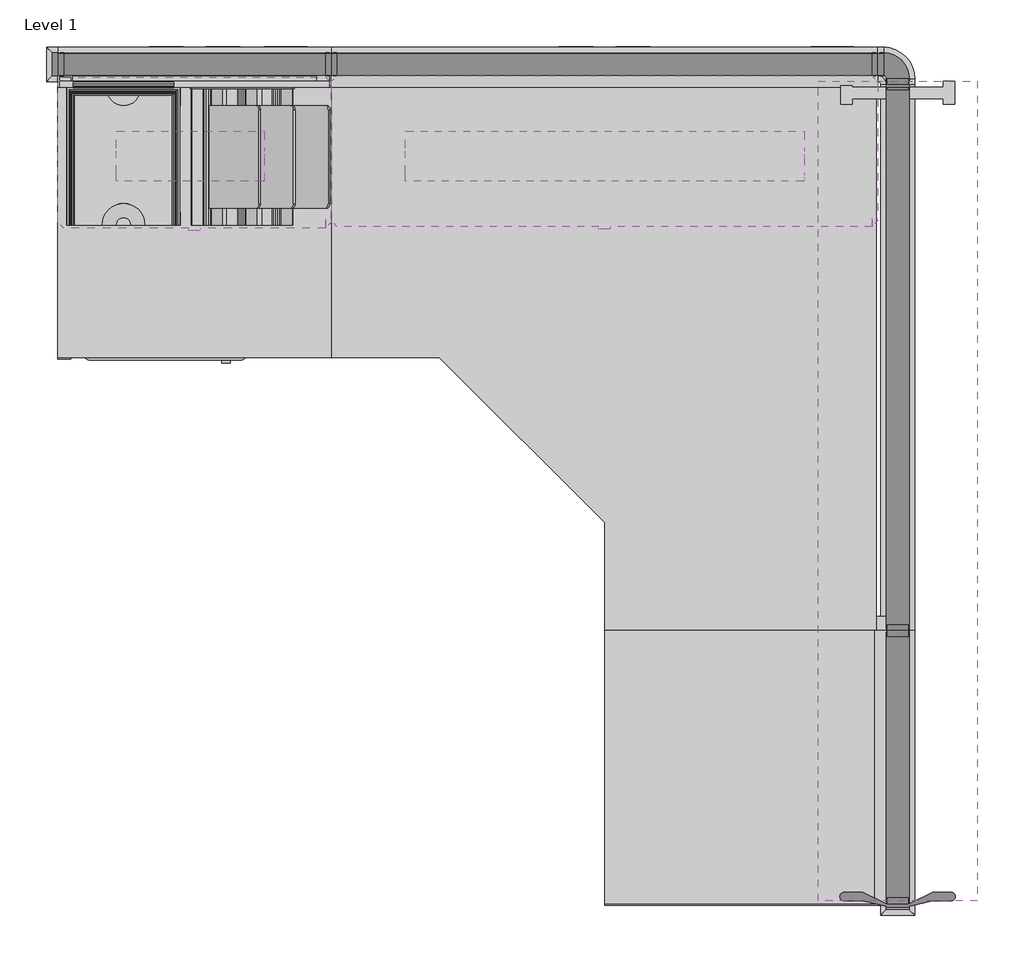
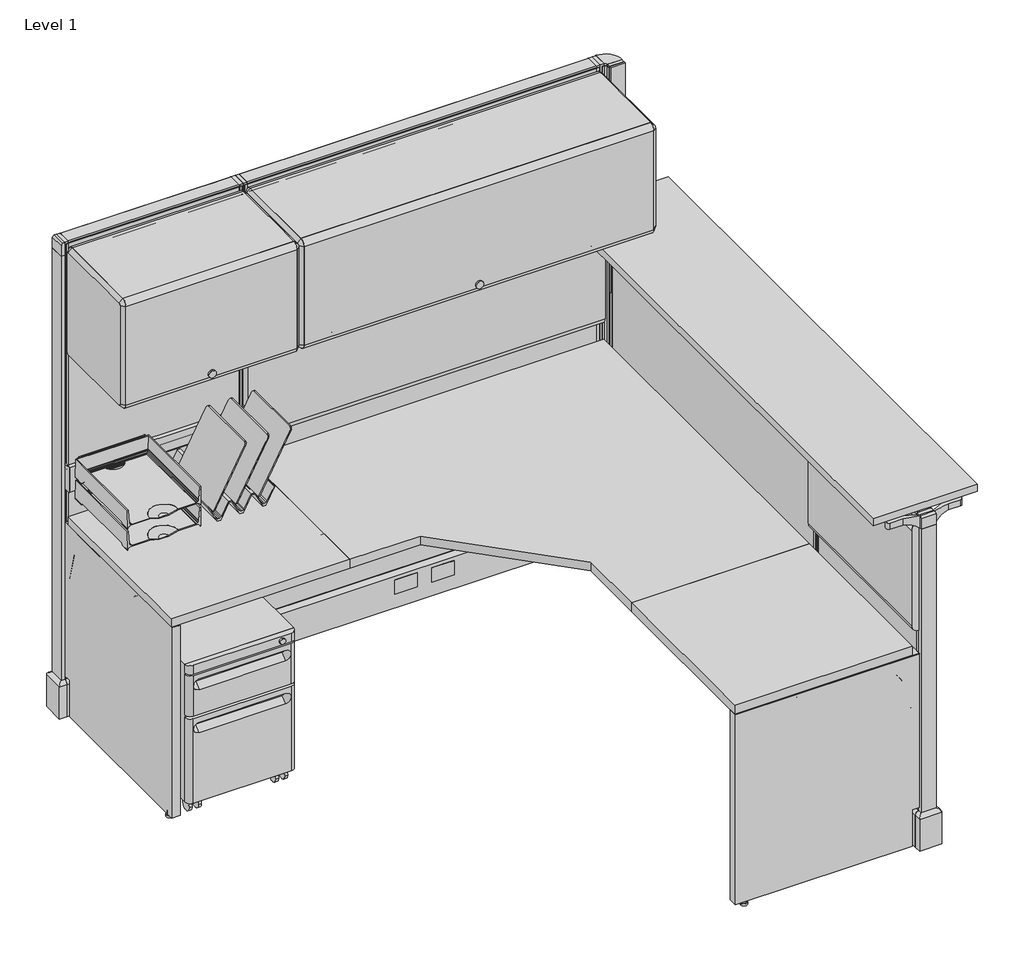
# One storey, incomplete: 24 furniture elements, 2 light fixtures.
"""IFC4 building model written with IfcOpenShell, lengths in millimetres."""

from ifc_helpers import new_model, si_unit, origin, place, context, project, spatial, transform, mapped, element, save
from components import furniture_75fc3fe0, furniture_a2665887, furniture_f058e72c, furniture_db9437f5, furniture_d4c6b201, furniture_b123b550, furniture_6a59721d, furniture_cb78dd66, furniture_6098a880, furniture_061b7ed1, furniture_fdb7128d, furniture_22e63fa4, furniture_4f6b2c6c, furniture_f221023d, furniture_98713a82, furniture_84c54a78, furniture_b7c7402d, furniture_d0aba1ae, furniture_3045a4df, furniture_5c2546f9, furniture_ba981915, mid_end_1fdd12aa, light_fixture_06b90bd9, light_fixture_23ee1715

model = new_model("IFC4")

# Units and contexts
model_context = context("Model", 3, world=origin())
ifc_project = project(units=[si_unit("LENGTHUNIT", "METRE", prefix="MILLI")], contexts=[model_context])

# Site, building, storey
site = spatial("IfcSite", under=ifc_project)
building = spatial("IfcBuilding", under=site)
storey = spatial("IfcBuildingStorey", under=building, Name="Level 1", Elevation=0.0)

# Furniture
placement = place(None, origin())
furniture_shape = furniture_75fc3fe0(model_context)
element("IfcFurniture", 1, ObjectType="HermanMiller_ThrivePortfolio_Y7218_DiagonalTray : 8 1/2\"H x 12\"D x 13\"W", at=placement, inside=storey, context=model_context, shape_type="MappedRepresentation", body=[
    mapped(furniture_shape, transform((410.816817, -230.22052, 0.0), x_axis=(1.0, 0.0, 0.0), y_axis=(0.0, 1.0, 0.0), z_axis=(0.0, 0.0, 1.0))),
])
furniture_2_shape = furniture_a2665887(model_context)
element("IfcFurniture", 2, ObjectType="HermanMiller_ThrivePortfolio_Y7216_PaperTray : 3\"H x 12\"D x 10\"W", at=placement, inside=storey, context=model_context, shape_type="MappedRepresentation", body=[
    mapped(furniture_2_shape, transform((146.2024, -230.22052, 0.0), x_axis=(1.0, 0.0, 0.0), y_axis=(0.0, 1.0, 0.0), z_axis=(0.0, 0.0, 1.0))),
])
furniture_3_shape = furniture_f058e72c(model_context)
element("IfcFurniture", 3, ObjectType="HermanMiller_ThrivePortfolio_Y7216_PaperTray : 3\"H x 12\"D x 10\"W", at=placement, inside=storey, context=model_context, shape_type="MappedRepresentation", body=[
    mapped(furniture_3_shape, transform((146.2024, -230.22052, 0.0), x_axis=(1.0, 0.0, 0.0), y_axis=(0.0, 1.0, 0.0), z_axis=(0.0, 0.0, 1.0))),
])
furniture_4_shape = furniture_db9437f5(model_context)
element("IfcFurniture", 4, ObjectType="HermanMiller_ActionOffice_A2332_Sq-EdgeCornerWorkSurface : 24\"D x 48\"W", at=placement, inside=storey, context=model_context, shape_type="MappedRepresentation", body=[
    mapped(furniture_4_shape, transform((1063.625, -812.8, 0.0), x_axis=(0.0, -1.0, 0.0), y_axis=(1.0, 0.0, 0.0), z_axis=(0.0, 0.0, 1.0))),
])
furniture_5_shape = furniture_d4c6b201(model_context)
element("IfcFurniture", 5, ObjectType="HermanMiller_ActionOffice_A2310_Sq-EdgeRectangularWorkSurface : 24\"D x 24\"W", at=placement, inside=storey, context=model_context, shape_type="MappedRepresentation", body=[
    mapped(furniture_5_shape, transform((1533.525, -1593.85, 0.0), x_axis=(0.0, -1.0, 0.0), y_axis=(1.0, 0.0, 0.0), z_axis=(0.0, 0.0, 1.0))),
])
element("IfcFurniture", 6, ObjectType="HermanMiller_ActionOffice_A2310_Sq-EdgeRectangularWorkSurface : 24\"D x 24\"W", at=placement, inside=storey, context=model_context, shape_type="MappedRepresentation", body=[
    mapped(furniture_5_shape, transform((304.8, -365.125, 0.0), x_axis=(1.0, 0.0, 0.0), y_axis=(0.0, 1.0, 0.0), z_axis=(0.0, 0.0, 1.0))),
])
furniture_6_shape = furniture_b123b550(model_context)
element("IfcFurniture", 7, ObjectType="HermanMiller_ActionOffice_A3352_B-StyleFlipperDoorUnit : 15 1/2\"H x 13\"D x 24\"W", at=placement, inside=storey, context=model_context, shape_type="MappedRepresentation", body=[
    mapped(furniture_6_shape, transform((304.8, -234.95, 0.0), x_axis=(1.0, 0.0, 0.0), y_axis=(0.0, 1.0, 0.0), z_axis=(0.0, 0.0, 1.0))),
])
furniture_7_shape = furniture_6a59721d(model_context)
element("IfcFurniture", 8, ObjectType="HermanMiller_ActionOffice_A3610_ToolBar : 4\"H x 24\"W", at=placement, inside=storey, context=model_context, shape_type="MappedRepresentation", body=[
    mapped(furniture_7_shape, transform((304.8, -63.4999996, 0.0), x_axis=(1.0, 0.0, 0.0), y_axis=(0.0, 1.0, 0.0), z_axis=(0.0, 0.0, 1.0))),
])
furniture_8_shape = furniture_cb78dd66(model_context)
element("IfcFurniture", 9, ObjectType="HermanMiller_ActionOffice_A3410_B-StyleTackboard : 16\"H x 48\"W", at=placement, inside=storey, context=model_context, shape_type="MappedRepresentation", body=[
    mapped(furniture_8_shape, transform((1219.2, -63.5, 0.0), x_axis=(1.0, 0.0, 0.0), y_axis=(0.0, 1.0, 0.0), z_axis=(0.0, 0.0, 1.0))),
])
furniture_9_shape = furniture_6098a880(model_context)
element("IfcFurniture", 10, ObjectType="HermanMiller_ActionOffice_A3352_B-StyleFlipperDoorUnit : 15 1/2\"H x 13\"D x 48\"W", at=placement, inside=storey, context=model_context, shape_type="MappedRepresentation", body=[
    mapped(furniture_9_shape, transform((1219.2, -231.775, 0.0), x_axis=(1.0, 0.0, 0.0), y_axis=(0.0, 1.0, 0.0), z_axis=(0.0, 0.0, 1.0))),
])
furniture_10_shape = furniture_061b7ed1(model_context)
element("IfcFurniture", 11, ObjectType="HermanMiller_ActionOffice_A3410_B-StyleTackboard : 16\"H x 24\"W", at=placement, inside=storey, context=model_context, shape_type="MappedRepresentation", body=[
    mapped(furniture_10_shape, transform((1835.15, -1593.85, 0.0), x_axis=(0.0, -1.0, 0.0), y_axis=(1.0, 0.0, 0.0), z_axis=(0.0, 0.0, 1.0))),
])
furniture_11_shape = furniture_fdb7128d(model_context)
element("IfcFurniture", 12, ObjectType="HermanMiller_ActionOffice_A2830_Sq-EdgeTransactionSurfaceRectangularEnd : 14\"D x 72\"W", at=placement, inside=storey, context=model_context, shape_type="MappedRepresentation", body=[
    mapped(furniture_11_shape, transform((2051.05, -977.9, 0.0), x_axis=(0.0, -1.0, 0.0), y_axis=(1.0, 0.0, 0.0), z_axis=(0.0, 0.0, 1.0))),
])
furniture_12_shape = furniture_22e63fa4(model_context)
element("IfcFurniture", 13, ObjectType="HermanMiller_ActionOffice_A1110_Hard-SurfacedPanelStandardBase : 47\"H x 24\"W-N", at=placement, inside=storey, context=model_context, shape_type="MappedRepresentation", body=[
    mapped(furniture_12_shape, transform((1873.25, -1593.85, 0.0), x_axis=(0.0, -1.0, 0.0), y_axis=(1.0, 0.0, 0.0), z_axis=(0.0, 0.0, 1.0))),
])
furniture_13_shape = furniture_4f6b2c6c(model_context)
element("IfcFurniture", 14, ObjectType="HermanMiller_ActionOffice_A1110_Hard-SurfacedPanelStandardBase : 47\"H x 48\"W-N", at=placement, inside=storey, context=model_context, shape_type="MappedRepresentation", body=[
    mapped(furniture_13_shape, transform((1873.25, -679.45, 0.0), x_axis=(0.0, -1.0, 0.0), y_axis=(1.0, 0.0, 0.0), z_axis=(0.0, 0.0, 1.0))),
])
furniture_14_shape = furniture_f221023d(model_context)
element("IfcFurniture", 15, ObjectType="HermanMiller_ActionOffice_A1110_Hard-SurfacedPanelStandardBase : 67\"H x 48\"W-G", at=placement, inside=storey, context=model_context, shape_type="MappedRepresentation", body=[
    mapped(furniture_14_shape, transform((1219.2, -25.4, 0.0), x_axis=(1.0, 0.0, 0.0), y_axis=(0.0, 1.0, 0.0), z_axis=(0.0, 0.0, 1.0))),
])
furniture_15_shape = furniture_98713a82(model_context)
element("IfcFurniture", 16, ObjectType="HermanMiller_ActionOffice_A1110_Hard-SurfacedPanelStandardBase : 67\"H x 24\"W-G", at=placement, inside=storey, context=model_context, shape_type="MappedRepresentation", body=[
    mapped(furniture_15_shape, transform((304.8, -25.4, 0.0), x_axis=(1.0, 0.0, 0.0), y_axis=(0.0, 1.0, 0.0), z_axis=(0.0, 0.0, 1.0))),
])
furniture_16_shape = furniture_84c54a78(model_context)
element("IfcFurniture", 17, ObjectType="HermanMiller_QuadrantFiling_G5111_MobilePedestal : 21-1/2\"H x 20\"D x 15\"W BF", at=placement, inside=storey, context=model_context, shape_type="MappedRepresentation", body=[
    mapped(furniture_16_shape, transform((239.44326, -422.132763, 0.0), x_axis=(1.0, 0.0, 0.0), y_axis=(0.0, 1.0, 0.0), z_axis=(0.0, 0.0, 1.0))),
])
furniture_17_shape = furniture_b7c7402d(model_context)
element("IfcFurniture", 18, ObjectType="HermanMiller_ActionOffice_A2380_WorkSuraceSupportPanelEnd : 24\"D", at=placement, inside=storey, context=model_context, shape_type="MappedRepresentation", body=[
    mapped(furniture_17_shape, transform((1219.2, -1873.25, 0.0), x_axis=(0.0, -1.0, 0.0), y_axis=(1.0, 0.0, 0.0), z_axis=(0.0, 0.0, 1.0))),
])
element("IfcFurniture", 19, ObjectType="HermanMiller_ActionOffice_A2380_WorkSuraceSupportPanelEnd : 24\"D", at=placement, inside=storey, context=model_context, shape_type="MappedRepresentation", body=[
    mapped(furniture_17_shape, transform((0.0, -682.625, 0.0), x_axis=(1.0, 0.0, 0.0), y_axis=(0.0, 1.0, 0.0), z_axis=(0.0, 0.0, 1.0))),
])
furniture_18_shape = furniture_d0aba1ae(model_context)
element("IfcFurniture", 20, ObjectType="HermanMiller_ActionOffice_AO259_AO272_FinishedEndChangeOfHeight : 32\"H Panel/Conn", at=placement, inside=storey, context=model_context, shape_type="MappedRepresentation", body=[
    mapped(furniture_18_shape, transform((1952.8209967, -9.3290022, 0.0), x_axis=(0.0, 1.0, 0.0), y_axis=(-1.0, 0.0, 0.0), z_axis=(0.0, 0.0, 1.0))),
])
furniture_19_shape = furniture_3045a4df(model_context)
element("IfcFurniture", 21, ObjectType="HermanMiller_ActionOffice_A1271_FinishedEndStandardBase : 47\"H Trans End Spt", at=placement, inside=storey, context=model_context, shape_type="MappedRepresentation", body=[
    mapped(furniture_19_shape, transform((4321.9887877, 86.2060512, 0.0), x_axis=(0.0, -1.0, 0.0), y_axis=(1.0, 0.0, 0.0), z_axis=(0.0, 0.0, 1.0))),
])
furniture_20_shape = furniture_5c2546f9(model_context)
element("IfcFurniture", 22, ObjectType="HermanMiller_ActionOffice_A1271_FinishedEndStandardBase : 67\"H", at=placement, inside=storey, context=model_context, shape_type="MappedRepresentation", body=[
    mapped(furniture_20_shape, transform((1984.8560512, -2474.1387877, 0.0), x_axis=(-1.0, 0.0, 0.0), y_axis=(0.0, -1.0, 0.0), z_axis=(0.0, 0.0, 1.0))),
])
furniture_21_shape = furniture_ba981915(model_context)
element("IfcFurniture", 23, ObjectType="HermanMiller_ActionOffice_A1220_90ConnectorStandardBase : 67\"H 2-Way-Hard", at=placement, inside=storey, context=model_context, shape_type="MappedRepresentation", body=[
    mapped(furniture_21_shape, transform((1866.9, -39.9139414, 0.0), x_axis=(1.0, 0.0, 0.0), y_axis=(0.0, 1.0, 0.0), z_axis=(0.0, 0.0, 1.0))),
])
mid_end_shape = mid_end_1fdd12aa(model_context)
element("IfcFurniture", 24, ObjectType="HermanMiller_ActionOffice_AO460-AO464_TransactionSurfaceSupport : Mid-End", at=placement, inside=storey, context=model_context, shape_type="MappedRepresentation", body=[
    mapped(mid_end_shape, transform((1863.725, -1638.3, 0.0), x_axis=(0.0, 1.0, 0.0), y_axis=(-1.0, 0.0, 0.0), z_axis=(0.0, 0.0, 1.0))),
])

# Light fixtures
light_fixture_shape = light_fixture_06b90bd9(model_context)
element("IfcLightFixture", 25, ObjectType="HermanMiller_SupplementalProducts_G6136_UtilityTaskLight : AO Etho Canvas 42W", at=placement, inside=storey, context=model_context, shape_type="MappedRepresentation", body=[
    mapped(light_fixture_shape, transform((1219.2, -230.22052, 0.0), x_axis=(1.0, 0.0, 0.0), y_axis=(0.0, 1.0, 0.0), z_axis=(0.0, 0.0, 1.0))),
])
light_fixture_2_shape = light_fixture_23ee1715(model_context)
element("IfcLightFixture", 26, ObjectType="HermanMiller_SupplementalProducts_G6136_UtilityTaskLight : AO Etho Canvas 24W", at=placement, inside=storey, context=model_context, shape_type="MappedRepresentation", body=[
    mapped(light_fixture_2_shape, transform((294.97274, -230.22052, 0.0), x_axis=(1.0, 0.0, 0.0), y_axis=(0.0, 1.0, 0.0), z_axis=(0.0, 0.0, 1.0))),
])

save(model, "model.ifc")
